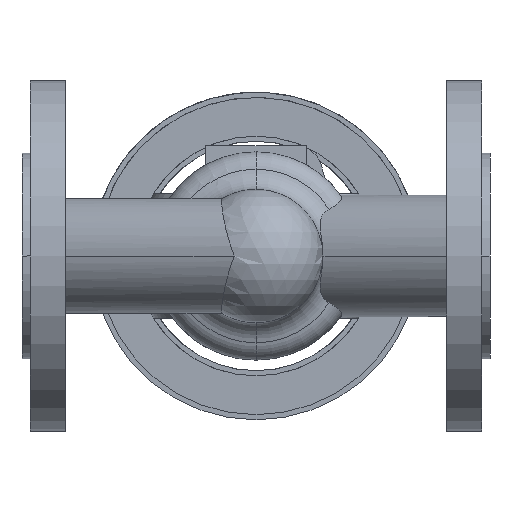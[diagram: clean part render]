
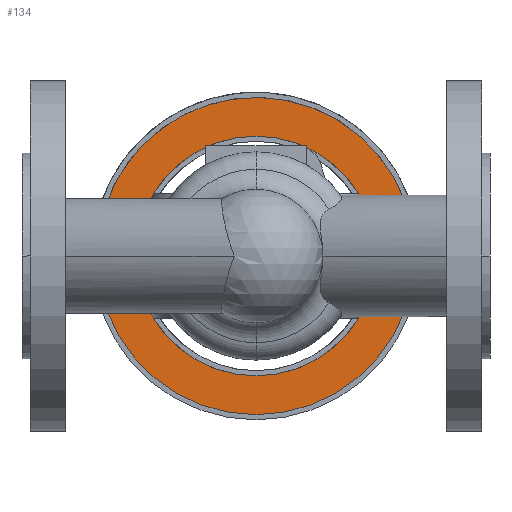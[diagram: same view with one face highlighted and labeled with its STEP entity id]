
A CAD part, front view. The second image highlights one B-rep face of the part: STEP entity #134.
In plain terms, the highlighted planar face has unit normal (0, -1, 0).
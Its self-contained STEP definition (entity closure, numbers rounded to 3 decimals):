
#134 = ADVANCED_FACE( '', ( #369, #370 ), #371, .T. );
#369 = FACE_OUTER_BOUND( '', #751, .T. );
#370 = FACE_BOUND( '', #752, .T. );
#371 = PLANE( '', #753 );
#751 = EDGE_LOOP( '', ( #1501, #1502 ) );
#752 = EDGE_LOOP( '', ( #1503, #1504 ) );
#753 = AXIS2_PLACEMENT_3D( '', #1505, #1506, #1507 );
#1501 = ORIENTED_EDGE( '', *, *, #2677, .F. );
#1502 = ORIENTED_EDGE( '', *, *, #2621, .F. );
#1503 = ORIENTED_EDGE( '', *, *, #2629, .T. );
#1504 = ORIENTED_EDGE( '', *, *, #2674, .T. );
#1505 = CARTESIAN_POINT( '', ( 159.5, 203.8, 0. ) );
#1506 = DIRECTION( '', ( 0., -1., 0. ) );
#1507 = DIRECTION( '', ( -1., 0., 0. ) );
#2621 = EDGE_CURVE( '', #3244, #3238, #3246, .T. );
#2629 = EDGE_CURVE( '', #3248, #3260, #3262, .T. );
#2674 = EDGE_CURVE( '', #3260, #3248, #3333, .T. );
#2677 = EDGE_CURVE( '', #3238, #3244, #3336, .T. );
#3238 = VERTEX_POINT( '', #4368 );
#3244 = VERTEX_POINT( '', #4375 );
#3246 = CIRCLE( '', #4378, 67.8 );
#3248 = VERTEX_POINT( '', #4380 );
#3260 = VERTEX_POINT( '', #4395 );
#3262 = CIRCLE( '', #4398, 51.2 );
#3333 = CIRCLE( '', #5105, 51.2 );
#3336 = CIRCLE( '', #5108, 67.8 );
#4368 = CARTESIAN_POINT( '', ( 167.8, 203.8, 0. ) );
#4375 = CARTESIAN_POINT( '', ( 32.2, 203.8, 0. ) );
#4378 = AXIS2_PLACEMENT_3D( '', #6170, #6171, #6172 );
#4380 = CARTESIAN_POINT( '', ( 151.2, 203.8, 0. ) );
#4395 = CARTESIAN_POINT( '', ( 48.8, 203.8, 0. ) );
#4398 = AXIS2_PLACEMENT_3D( '', #6186, #6187, #6188 );
#5105 = AXIS2_PLACEMENT_3D( '', #6273, #6274, #6275 );
#5108 = AXIS2_PLACEMENT_3D( '', #6282, #6283, #6284 );
#6170 = CARTESIAN_POINT( '', ( 100., 203.8, 0. ) );
#6171 = DIRECTION( '', ( 0., 1., 0. ) );
#6172 = DIRECTION( '', ( 1., 0., 0. ) );
#6186 = CARTESIAN_POINT( '', ( 100., 203.8, 0. ) );
#6187 = DIRECTION( '', ( 0., 1., 0. ) );
#6188 = DIRECTION( '', ( 1., 0., 0. ) );
#6273 = CARTESIAN_POINT( '', ( 100., 203.8, 0. ) );
#6274 = DIRECTION( '', ( 0., 1., 0. ) );
#6275 = DIRECTION( '', ( 1., 0., 0. ) );
#6282 = CARTESIAN_POINT( '', ( 100., 203.8, 0. ) );
#6283 = DIRECTION( '', ( 0., 1., 0. ) );
#6284 = DIRECTION( '', ( 1., 0., 0. ) );
